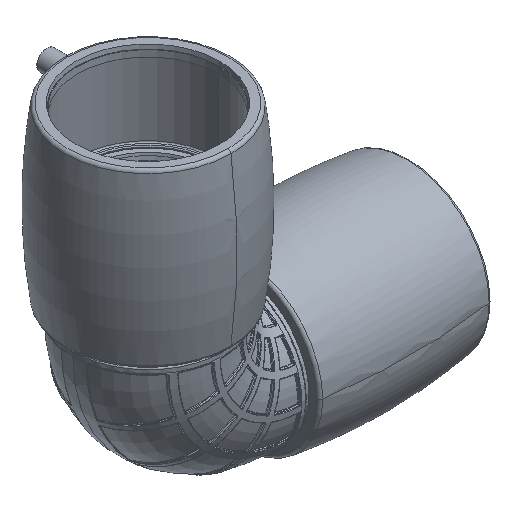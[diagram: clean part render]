
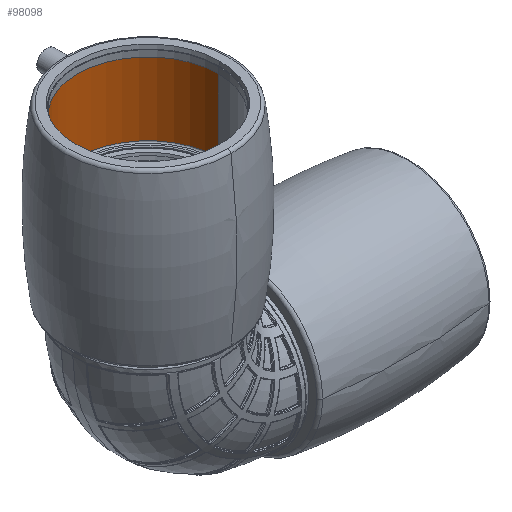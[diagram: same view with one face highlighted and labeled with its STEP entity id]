
A CAD part, isometric view. The second image highlights one B-rep face of the part: STEP entity #98098.
In plain terms, the highlighted cylindrical face has radius 55.4 mm (diameter 110.8 mm), a partial arc.
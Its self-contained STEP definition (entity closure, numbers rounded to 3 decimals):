
#3006 = ORIENTED_EDGE ( 'NONE', *, *, #41775, .F. ) ;
#6158 = EDGE_CURVE ( 'NONE', #19597, #106718, #16017, .T. ) ;
#6356 = CARTESIAN_POINT ( 'NONE',  ( 0., 0., 139.9 ) ) ;
#12714 = DIRECTION ( 'NONE',  ( 0., 0., -1. ) ) ;
#13265 = DIRECTION ( 'NONE',  ( -1., 0., 0. ) ) ;
#13278 = CARTESIAN_POINT ( 'NONE',  ( 55.4, 0., 60.937 ) ) ;
#14349 = ORIENTED_EDGE ( 'NONE', *, *, #6158, .T. ) ;
#15171 = CARTESIAN_POINT ( 'NONE',  ( 0., 0., 196.9 ) ) ;
#16017 = CIRCLE ( 'NONE', #61732, 55.4 ) ;
#19597 = VERTEX_POINT ( 'NONE', #89535 ) ;
#20697 = DIRECTION ( 'NONE',  ( -1., 0., 0. ) ) ;
#24301 = DIRECTION ( 'NONE',  ( 0., 0., -1. ) ) ;
#26322 = AXIS2_PLACEMENT_3D ( 'NONE', #15171, #24301, #67292 ) ;
#31080 = AXIS2_PLACEMENT_3D ( 'NONE', #83670, #108873, #20697 ) ;
#34540 = DIRECTION ( 'NONE',  ( 0., 0., -1. ) ) ;
#35383 = CIRCLE ( 'NONE', #26322, 55.4 ) ;
#36442 = EDGE_CURVE ( 'NONE', #42587, #19597, #105533, .T. ) ;
#38313 = EDGE_CURVE ( 'NONE', #42587, #39886, #35383, .T. ) ;
#39886 = VERTEX_POINT ( 'NONE', #62180 ) ;
#41775 = EDGE_CURVE ( 'NONE', #39886, #106718, #100311, .T. ) ;
#42587 = VERTEX_POINT ( 'NONE', #101716 ) ;
#44387 = VECTOR ( 'NONE', #34540, 1000. ) ;
#61732 = AXIS2_PLACEMENT_3D ( 'NONE', #6356, #92831, #13265 ) ;
#62180 = CARTESIAN_POINT ( 'NONE',  ( 55.4, 0., 196.9 ) ) ;
#67023 = ORIENTED_EDGE ( 'NONE', *, *, #38313, .F. ) ;
#67292 = DIRECTION ( 'NONE',  ( -1., 0., 0. ) ) ;
#68655 = ORIENTED_EDGE ( 'NONE', *, *, #36442, .T. ) ;
#68935 = CARTESIAN_POINT ( 'NONE',  ( -55.4, 0., 60.937 ) ) ;
#83670 = CARTESIAN_POINT ( 'NONE',  ( 0., 0., 60.937 ) ) ;
#88460 = EDGE_LOOP ( 'NONE', ( #3006, #67023, #68655, #14349 ) ) ;
#89535 = CARTESIAN_POINT ( 'NONE',  ( -55.4, 0., 139.9 ) ) ;
#89981 = CYLINDRICAL_SURFACE ( 'NONE', #31080, 55.4 ) ;
#92831 = DIRECTION ( 'NONE',  ( 0., 0., -1. ) ) ;
#96044 = VECTOR ( 'NONE', #12714, 1000. ) ;
#98098 = ADVANCED_FACE ( 'NONE', ( #98562 ), #89981, .F. ) ;
#98562 = FACE_OUTER_BOUND ( 'NONE', #88460, .T. ) ;
#100311 = LINE ( 'NONE', #13278, #96044 ) ;
#101716 = CARTESIAN_POINT ( 'NONE',  ( -55.4, 0., 196.9 ) ) ;
#105533 = LINE ( 'NONE', #68935, #44387 ) ;
#106718 = VERTEX_POINT ( 'NONE', #108722 ) ;
#108722 = CARTESIAN_POINT ( 'NONE',  ( 55.4, 0., 139.9 ) ) ;
#108873 = DIRECTION ( 'NONE',  ( 0., 0., -1. ) ) ;
